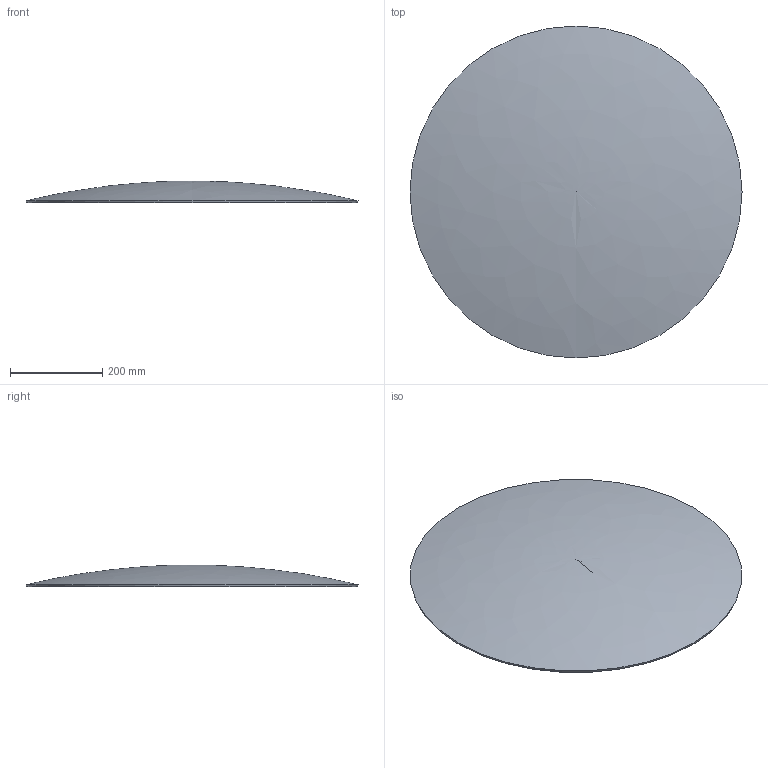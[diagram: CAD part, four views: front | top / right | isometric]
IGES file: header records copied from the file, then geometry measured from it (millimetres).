
Start section: Data from Parasolid IGES Translator 20.0.26, Copyright(c) 2006 Siemens P LM Software. All Rights Reserved.
Global section: file name: 48534.igs; native system: By Siemens PLM Incorporated; preprocessor: XPlus GENERIC/IGES 20.0.26; author: Noname; organization: Noname; date: 20210125.173102; units: millimetre
Bounding box: 720 x 720 x 47.55 mm (x, y, z)
Surface area: 834275.4 mm2 (no closed solid volume)
Topology: 0 solids, 0 shells, 3 faces, 16 edges, 14 vertices
Faces by surface type: revolution 3
